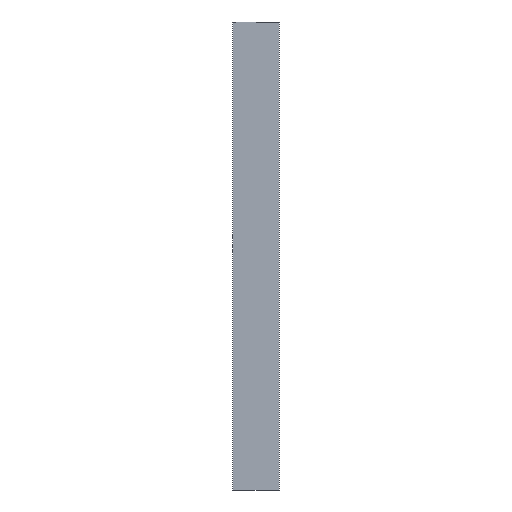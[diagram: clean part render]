
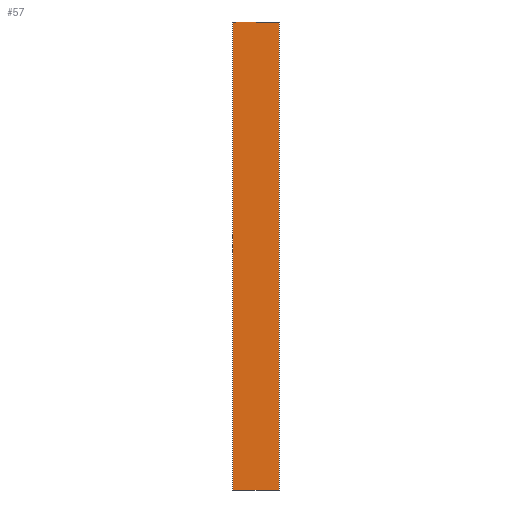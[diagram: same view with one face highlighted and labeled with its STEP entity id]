
A CAD part, left-side view. The second image highlights one B-rep face of the part: STEP entity #57.
In plain terms, the highlighted cylindrical face has radius 1 mm (diameter 2 mm), a partial arc.
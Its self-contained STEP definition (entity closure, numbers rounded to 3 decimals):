
#1=CARTESIAN_POINT('',(0.,0.,0.));
#2=CARTESIAN_POINT('',(1.,0.,0.));
#3=CARTESIAN_POINT('',(1.,0.,1.));
#4=CARTESIAN_POINT('',(0.995,0.1,1.));
#5=CARTESIAN_POINT('',(0.995,0.1,0.));
#6=CARTESIAN_POINT('',(1.,0.,0.333));
#7=CARTESIAN_POINT('',(1.,0.,0.667));
#10=VERTEX_POINT('',#2);
#11=VERTEX_POINT('',#3);
#12=VERTEX_POINT('',#4);
#13=VERTEX_POINT('',#5);
#20=DIRECTION('',(0.,0.,1.));
#21=DIRECTION('',(1.,0.,0.));
#22=DIRECTION('',(0.,0.,-1.));
#23=VECTOR('',#22,1.);
#28=DIRECTION('',(-0.05,0.999,0.));
#29=VECTOR('',#28,0.1);
#33=DIRECTION('',(0.05,-0.999,0.));
#34=VECTOR('',#33,0.1);
#24=AXIS2_PLACEMENT_3D('',#1,#20,#21);
#27=LINE('',#4,#23);
#30=B_SPLINE_CURVE_WITH_KNOTS('',3,(#2,#6,#7,#3),.UNSPECIFIED.,.F.,.F.,(4,4),(0.,1.),.UNSPECIFIED.);
#31=LINE('',#3,#29);
#32=LINE('',#5,#34);
#40=EDGE_CURVE('',#10,#11,#30,.T.);
#41=EDGE_CURVE('',#11,#12,#31,.T.);
#42=EDGE_CURVE('',#12,#13,#27,.T.);
#43=EDGE_CURVE('',#13,#10,#32,.F.);
#50=ORIENTED_EDGE('',*,*,#40,.T.);
#51=ORIENTED_EDGE('',*,*,#41,.T.);
#52=ORIENTED_EDGE('',*,*,#42,.T.);
#53=ORIENTED_EDGE('',*,*,#43,.T.);
#54=EDGE_LOOP('',(#50,#51,#52,#53));
#55=FACE_OUTER_BOUND('',#54,.T.);
#56=CYLINDRICAL_SURFACE('',#24,1.);
#57=ADVANCED_FACE('',(#55),#56,.T.);
